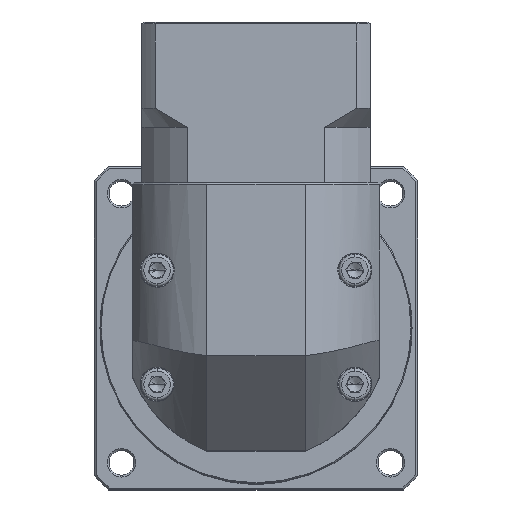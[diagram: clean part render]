
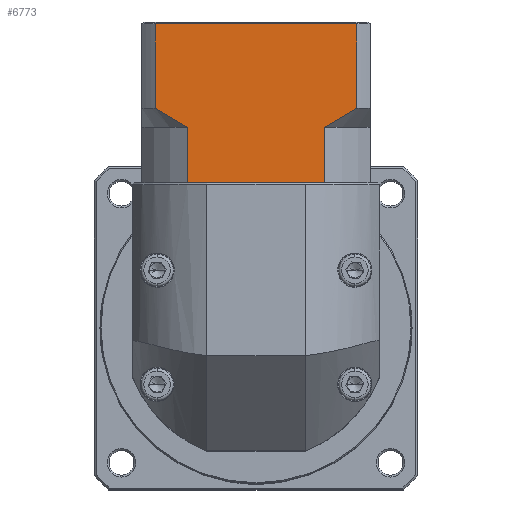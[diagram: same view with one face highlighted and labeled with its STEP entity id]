
A CAD part, top view. The second image highlights one B-rep face of the part: STEP entity #6773.
In plain terms, the highlighted planar face has unit normal (0, 0, 1).
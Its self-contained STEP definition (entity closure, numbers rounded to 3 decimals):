
#824 = CARTESIAN_POINT ( 'NONE',  ( -39.924, 117.999, 37.609 ) ) ;
#1114 = PLANE ( 'NONE',  #99729 ) ;
#3797 = DIRECTION ( 'NONE',  ( 1., 0., 0. ) ) ;
#4336 = CARTESIAN_POINT ( 'NONE',  ( -96.382, 76.299, 37.609 ) ) ;
#4410 = CARTESIAN_POINT ( 'NONE',  ( -84.41, 90.799, 37.609 ) ) ;
#5705 = DIRECTION ( 'NONE',  ( -1., 0., 0. ) ) ;
#6293 = EDGE_CURVE ( 'NONE', #72090, #81070, #120518, .T. ) ;
#6773 = ADVANCED_FACE ( 'NONE', ( #130439 ), #1114, .F. ) ;
#7802 = CARTESIAN_POINT ( 'NONE',  ( -92.839, 95.799, 37.609 ) ) ;
#8165 = VERTEX_POINT ( 'NONE', #133896 ) ;
#10135 = DIRECTION ( 'NONE',  ( 0., -1., 0. ) ) ;
#11065 = LINE ( 'NONE', #72512, #59261 ) ;
#11712 = DIRECTION ( 'NONE',  ( 0., 1., 0. ) ) ;
#13069 = DIRECTION ( 'NONE',  ( 0., 0., -1. ) ) ;
#15032 = DIRECTION ( 'NONE',  ( 0., 1., 0. ) ) ;
#15586 = ORIENTED_EDGE ( 'NONE', *, *, #49246, .T. ) ;
#16156 = VECTOR ( 'NONE', #10135, 1000. ) ;
#17388 = VECTOR ( 'NONE', #77910, 1000. ) ;
#20328 = CARTESIAN_POINT ( 'NONE',  ( -84.41, 90.799, 37.609 ) ) ;
#22509 = EDGE_LOOP ( 'NONE', ( #38497, #32533, #84933, #131383, #76897, #15586, #87635, #98977, #130145, #72845 ) ) ;
#23882 = VECTOR ( 'NONE', #15032, 1000. ) ;
#27132 = CARTESIAN_POINT ( 'NONE',  ( -39.924, 95.799, 37.609 ) ) ;
#32533 = ORIENTED_EDGE ( 'NONE', *, *, #82107, .T. ) ;
#32776 = VERTEX_POINT ( 'NONE', #137970 ) ;
#34115 = CARTESIAN_POINT ( 'NONE',  ( -96.382, 118.499, 37.609 ) ) ;
#38497 = ORIENTED_EDGE ( 'NONE', *, *, #119949, .F. ) ;
#39074 = B_SPLINE_CURVE_WITH_KNOTS ( 'NONE', 3,
 ( #111721, #57792, #47562, #100127, #48927, #47083 ),
 .UNSPECIFIED., .F., .F.,
 ( 4, 2, 4 ),
 ( 0.1, 0.104, 0.109 ),
 .UNSPECIFIED. ) ;
#41646 = EDGE_CURVE ( 'NONE', #63812, #81070, #44479, .T. ) ;
#43008 = LINE ( 'NONE', #52259, #91347 ) ;
#43766 = EDGE_CURVE ( 'NONE', #8165, #137589, #111420, .T. ) ;
#44479 = LINE ( 'NONE', #73912, #16156 ) ;
#47083 = CARTESIAN_POINT ( 'NONE',  ( -39.924, 95.799, 37.609 ) ) ;
#47562 = CARTESIAN_POINT ( 'NONE',  ( -45.472, 92.35, 37.609 ) ) ;
#48927 = CARTESIAN_POINT ( 'NONE',  ( -41.287, 94.898, 37.609 ) ) ;
#49246 = EDGE_CURVE ( 'NONE', #68607, #32776, #100717, .T. ) ;
#50582 = CARTESIAN_POINT ( 'NONE',  ( -91.479, 94.9, 37.609 ) ) ;
#52259 = CARTESIAN_POINT ( 'NONE',  ( -39.924, 90.799, 37.609 ) ) ;
#54529 = LINE ( 'NONE', #4336, #136115 ) ;
#57792 = CARTESIAN_POINT ( 'NONE',  ( -46.898, 91.549, 37.609 ) ) ;
#59261 = VECTOR ( 'NONE', #93903, 1000. ) ;
#61554 = DIRECTION ( 'NONE',  ( 0., -1., 0. ) ) ;
#62375 = VECTOR ( 'NONE', #3797, 1000. ) ;
#62867 = VERTEX_POINT ( 'NONE', #97836 ) ;
#63812 = VERTEX_POINT ( 'NONE', #85396 ) ;
#67610 = CARTESIAN_POINT ( 'NONE',  ( -48.354, 76.299, 37.609 ) ) ;
#68607 = VERTEX_POINT ( 'NONE', #82165 ) ;
#72090 = VERTEX_POINT ( 'NONE', #97997 ) ;
#72467 = CARTESIAN_POINT ( 'NONE',  ( -87.293, 92.351, 37.609 ) ) ;
#72512 = CARTESIAN_POINT ( 'NONE',  ( -92.839, 90.799, 37.609 ) ) ;
#72845 = ORIENTED_EDGE ( 'NONE', *, *, #99946, .T. ) ;
#73912 = CARTESIAN_POINT ( 'NONE',  ( -48.354, 90.799, 37.609 ) ) ;
#76897 = ORIENTED_EDGE ( 'NONE', *, *, #113469, .F. ) ;
#77910 = DIRECTION ( 'NONE',  ( 1., 0., 0. ) ) ;
#81070 = VERTEX_POINT ( 'NONE', #67610 ) ;
#82107 = EDGE_CURVE ( 'NONE', #82967, #62867, #118974, .T. ) ;
#82165 = CARTESIAN_POINT ( 'NONE',  ( -84.41, 76.299, 37.609 ) ) ;
#82967 = VERTEX_POINT ( 'NONE', #824 ) ;
#84933 = ORIENTED_EDGE ( 'NONE', *, *, #106144, .F. ) ;
#85396 = CARTESIAN_POINT ( 'NONE',  ( -48.354, 90.799, 37.609 ) ) ;
#87635 = ORIENTED_EDGE ( 'NONE', *, *, #116531, .T. ) ;
#89096 = CARTESIAN_POINT ( 'NONE',  ( -96.382, 76.299, 37.609 ) ) ;
#91347 = VECTOR ( 'NONE', #61554, 1000. ) ;
#93397 = CARTESIAN_POINT ( 'NONE',  ( -85.862, 91.547, 37.609 ) ) ;
#93903 = DIRECTION ( 'NONE',  ( 0., 1., 0. ) ) ;
#97836 = CARTESIAN_POINT ( 'NONE',  ( -92.839, 117.999, 37.609 ) ) ;
#97997 = CARTESIAN_POINT ( 'NONE',  ( -49.345, 76.299, 37.609 ) ) ;
#98977 = ORIENTED_EDGE ( 'NONE', *, *, #6293, .T. ) ;
#99729 = AXIS2_PLACEMENT_3D ( 'NONE', #34115, #13069, #11712 ) ;
#99907 = VERTEX_POINT ( 'NONE', #27132 ) ;
#99946 = EDGE_CURVE ( 'NONE', #63812, #99907, #39074, .T. ) ;
#100127 = CARTESIAN_POINT ( 'NONE',  ( -42.667, 94.024, 37.609 ) ) ;
#100717 = LINE ( 'NONE', #109771, #62375 ) ;
#105683 = VECTOR ( 'NONE', #5705, 1000. ) ;
#106144 = EDGE_CURVE ( 'NONE', #8165, #62867, #11065, .T. ) ;
#109771 = CARTESIAN_POINT ( 'NONE',  ( -96.382, 76.299, 37.609 ) ) ;
#111252 = CARTESIAN_POINT ( 'NONE',  ( -96.382, 117.999, 37.609 ) ) ;
#111420 = B_SPLINE_CURVE_WITH_KNOTS ( 'NONE', 3,
 ( #7802, #50582, #126795, #72467, #93397, #20328 ),
 .UNSPECIFIED., .F., .F.,
 ( 4, 2, 4 ),
 ( 0.052, 0.057, 0.062 ),
 .UNSPECIFIED. ) ;
#111721 = CARTESIAN_POINT ( 'NONE',  ( -48.354, 90.799, 37.609 ) ) ;
#113469 = EDGE_CURVE ( 'NONE', #68607, #137589, #135333, .T. ) ;
#115202 = CARTESIAN_POINT ( 'NONE',  ( -84.41, 90.799, 37.609 ) ) ;
#116531 = EDGE_CURVE ( 'NONE', #32776, #72090, #54529, .T. ) ;
#118974 = LINE ( 'NONE', #111252, #105683 ) ;
#119949 = EDGE_CURVE ( 'NONE', #82967, #99907, #43008, .T. ) ;
#120083 = DIRECTION ( 'NONE',  ( 1., 0., 0. ) ) ;
#120518 = LINE ( 'NONE', #89096, #17388 ) ;
#126795 = CARTESIAN_POINT ( 'NONE',  ( -90.101, 94.026, 37.609 ) ) ;
#130145 = ORIENTED_EDGE ( 'NONE', *, *, #41646, .F. ) ;
#130439 = FACE_OUTER_BOUND ( 'NONE', #22509, .T. ) ;
#131383 = ORIENTED_EDGE ( 'NONE', *, *, #43766, .T. ) ;
#133896 = CARTESIAN_POINT ( 'NONE',  ( -92.839, 95.799, 37.609 ) ) ;
#135333 = LINE ( 'NONE', #4410, #23882 ) ;
#136115 = VECTOR ( 'NONE', #120083, 1000. ) ;
#137589 = VERTEX_POINT ( 'NONE', #115202 ) ;
#137970 = CARTESIAN_POINT ( 'NONE',  ( -83.419, 76.299, 37.609 ) ) ;
